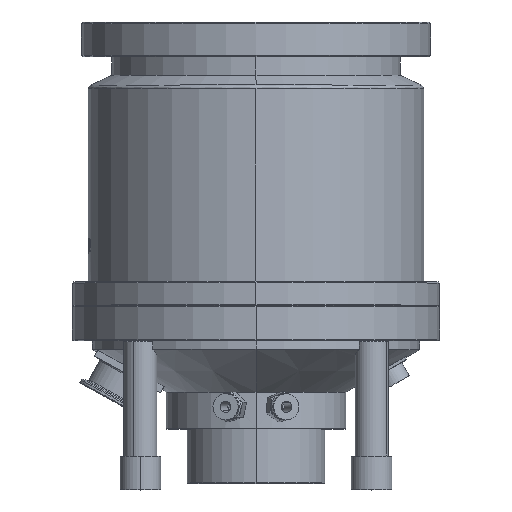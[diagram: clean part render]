
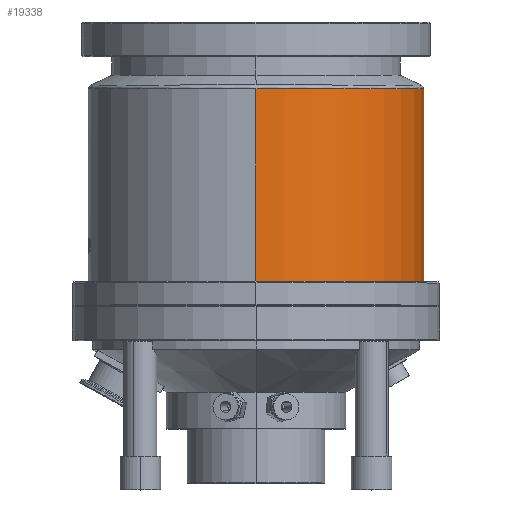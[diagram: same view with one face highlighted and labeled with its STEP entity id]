
A CAD part, top view. The second image highlights one B-rep face of the part: STEP entity #19338.
In plain terms, the highlighted cylindrical face has radius 121.5 mm (diameter 243 mm), a partial arc.
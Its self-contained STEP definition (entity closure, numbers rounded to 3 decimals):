
#135 = VERTEX_POINT ( 'NONE', #2246 ) ;
#2246 = CARTESIAN_POINT ( 'NONE',  ( 121.5, 3.662, 0. ) ) ;
#2659 = AXIS2_PLACEMENT_3D ( 'NONE', #11194, #11088, #11041 ) ;
#2732 = AXIS2_PLACEMENT_3D ( 'NONE', #13666, #13657, #13624 ) ;
#2868 = AXIS2_PLACEMENT_3D ( 'NONE', #17331, #17283, #17277 ) ;
#3030 = CIRCLE ( 'NONE', #2732, 121.5 ) ;
#3037 = LINE ( 'NONE', #13574, #18178 ) ;
#4447 = CARTESIAN_POINT ( 'NONE',  ( 0., -1.608, 0. ) ) ;
#4616 = DIRECTION ( 'NONE',  ( 0., 0., 1. ) ) ;
#4627 = DIRECTION ( 'NONE',  ( 0., 1., 0. ) ) ;
#5461 = LINE ( 'NONE', #10938, #44185 ) ;
#8921 = CARTESIAN_POINT ( 'NONE',  ( 0., 3.662, 121.5 ) ) ;
#9397 = ORIENTED_EDGE ( 'NONE', *, *, #33446, .T. ) ;
#10938 = CARTESIAN_POINT ( 'NONE',  ( 0., -1.608, 121.5 ) ) ;
#10949 = DIRECTION ( 'NONE',  ( 0., 1., 0. ) ) ;
#11041 = DIRECTION ( 'NONE',  ( 0., 0., 1. ) ) ;
#11088 = DIRECTION ( 'NONE',  ( 0., -1., 0. ) ) ;
#11194 = CARTESIAN_POINT ( 'NONE',  ( 0., 3.662, 0. ) ) ;
#12644 = DIRECTION ( 'NONE',  ( 0., 1., 0. ) ) ;
#13569 = AXIS2_PLACEMENT_3D ( 'NONE', #4447, #4627, #4616 ) ;
#13574 = CARTESIAN_POINT ( 'NONE',  ( 0., -1.608, -121.5 ) ) ;
#13624 = DIRECTION ( 'NONE',  ( 0., 0., 1. ) ) ;
#13657 = DIRECTION ( 'NONE',  ( 0., 1., 0. ) ) ;
#13666 = CARTESIAN_POINT ( 'NONE',  ( 0., -136., 0. ) ) ;
#15046 = CIRCLE ( 'NONE', #2868, 121.5 ) ;
#16665 = VERTEX_POINT ( 'NONE', #36644 ) ;
#17277 = DIRECTION ( 'NONE',  ( 0., 0., 1. ) ) ;
#17283 = DIRECTION ( 'NONE',  ( 0., -1., 0. ) ) ;
#17331 = CARTESIAN_POINT ( 'NONE',  ( 0., 3.662, 0. ) ) ;
#17403 = CARTESIAN_POINT ( 'NONE',  ( 0., 3.662, -121.5 ) ) ;
#17457 = VERTEX_POINT ( 'NONE', #8921 ) ;
#18150 = CIRCLE ( 'NONE', #2659, 121.5 ) ;
#18178 = VECTOR ( 'NONE', #12644, 1000. ) ;
#18516 = CYLINDRICAL_SURFACE ( 'NONE', #13569, 121.5 ) ;
#19126 = VERTEX_POINT ( 'NONE', #17403 ) ;
#19338 = ADVANCED_FACE ( 'NONE', ( #28407 ), #18516, .T. ) ;
#22725 = ORIENTED_EDGE ( 'NONE', *, *, #33367, .T. ) ;
#23289 = ORIENTED_EDGE ( 'NONE', *, *, #33281, .T. ) ;
#27463 = VERTEX_POINT ( 'NONE', #37879 ) ;
#28407 = FACE_OUTER_BOUND ( 'NONE', #46208, .T. ) ;
#30504 = ORIENTED_EDGE ( 'NONE', *, *, #33510, .F. ) ;
#33281 = EDGE_CURVE ( 'NONE', #19126, #135, #15046, .T. ) ;
#33356 = EDGE_CURVE ( 'NONE', #16665, #27463, #3030, .T. ) ;
#33367 = EDGE_CURVE ( 'NONE', #27463, #19126, #3037, .T. ) ;
#33446 = EDGE_CURVE ( 'NONE', #135, #17457, #18150, .T. ) ;
#33510 = EDGE_CURVE ( 'NONE', #16665, #17457, #5461, .T. ) ;
#36644 = CARTESIAN_POINT ( 'NONE',  ( 0., -136., 121.5 ) ) ;
#37879 = CARTESIAN_POINT ( 'NONE',  ( 0., -136., -121.5 ) ) ;
#44185 = VECTOR ( 'NONE', #10949, 1000. ) ;
#45743 = ORIENTED_EDGE ( 'NONE', *, *, #33356, .T. ) ;
#46208 = EDGE_LOOP ( 'NONE', ( #45743, #22725, #23289, #9397, #30504 ) ) ;
